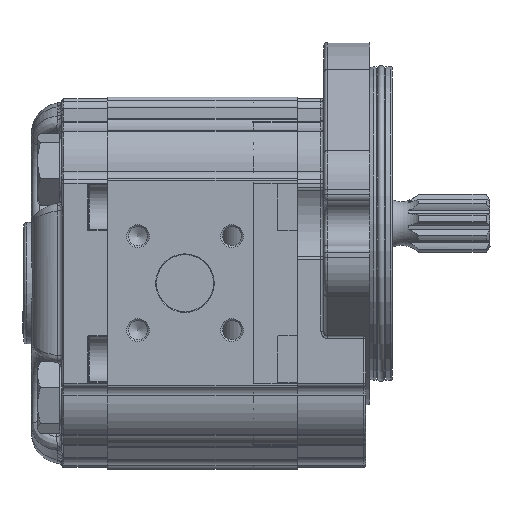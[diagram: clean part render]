
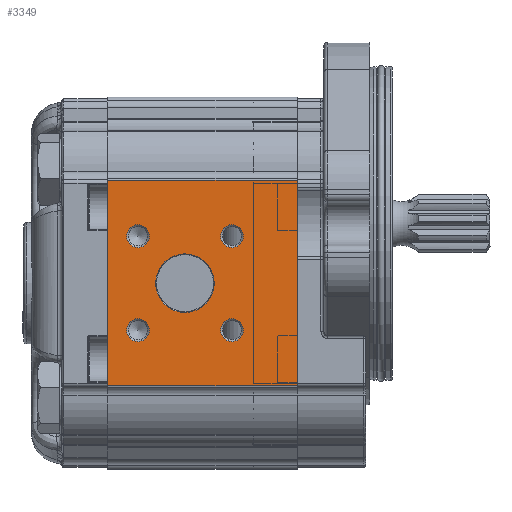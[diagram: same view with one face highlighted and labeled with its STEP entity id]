
A CAD part, left-side view. The second image highlights one B-rep face of the part: STEP entity #3349.
In plain terms, the highlighted planar face has unit normal (-1, 0, 0).
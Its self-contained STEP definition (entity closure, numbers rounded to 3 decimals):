
#3349 = ADVANCED_FACE( '', ( #8046, #8047, #8048, #8049, #8050, #8051 ), #8052, .T. );
#8046 = FACE_BOUND( '', #16081, .T. );
#8047 = FACE_BOUND( '', #16082, .T. );
#8048 = FACE_BOUND( '', #16083, .T. );
#8049 = FACE_BOUND( '', #16084, .T. );
#8050 = FACE_BOUND( '', #16085, .T. );
#8051 = FACE_OUTER_BOUND( '', #16086, .T. );
#8052 = PLANE( '', #16087 );
#16081 = EDGE_LOOP( '', ( #28395 ) );
#16082 = EDGE_LOOP( '', ( #28396 ) );
#16083 = EDGE_LOOP( '', ( #28397 ) );
#16084 = EDGE_LOOP( '', ( #28398 ) );
#16085 = EDGE_LOOP( '', ( #28399 ) );
#16086 = EDGE_LOOP( '', ( #28400, #28401, #28402, #28403 ) );
#16087 = AXIS2_PLACEMENT_3D( '', #28404, #28405, #28406 );
#28395 = ORIENTED_EDGE( '', *, *, #44004, .T. );
#28396 = ORIENTED_EDGE( '', *, *, #44005, .T. );
#28397 = ORIENTED_EDGE( '', *, *, #44006, .T. );
#28398 = ORIENTED_EDGE( '', *, *, #44007, .T. );
#28399 = ORIENTED_EDGE( '', *, *, #42517, .T. );
#28400 = ORIENTED_EDGE( '', *, *, #42496, .F. );
#28401 = ORIENTED_EDGE( '', *, *, #44008, .F. );
#28402 = ORIENTED_EDGE( '', *, *, #44009, .T. );
#28403 = ORIENTED_EDGE( '', *, *, #43338, .T. );
#28404 = CARTESIAN_POINT( '', ( -43., 50., 27.048 ) );
#28405 = DIRECTION( '', ( -1., 0., 0. ) );
#28406 = DIRECTION( '', ( 0., 0., 1. ) );
#42496 = EDGE_CURVE( '', #50825, #50827, #50828, .T. );
#42517 = EDGE_CURVE( '', #50863, #50863, #50864, .F. );
#43338 = EDGE_CURVE( '', #52152, #50827, #52153, .T. );
#44004 = EDGE_CURVE( '', #53133, #53133, #53134, .F. );
#44005 = EDGE_CURVE( '', #53135, #53135, #53136, .F. );
#44006 = EDGE_CURVE( '', #53137, #53137, #53138, .F. );
#44007 = EDGE_CURVE( '', #53139, #53139, #53140, .F. );
#44008 = EDGE_CURVE( '', #53141, #50825, #53142, .T. );
#44009 = EDGE_CURVE( '', #53141, #52152, #53143, .T. );
#50825 = VERTEX_POINT( '', #63923 );
#50827 = VERTEX_POINT( '', #63925 );
#50828 = LINE( '', #63926, #63927 );
#50863 = VERTEX_POINT( '', #63964 );
#50864 = CIRCLE( '', #63965, 3. );
#52152 = VERTEX_POINT( '', #66780 );
#52153 = LINE( '', #66781, #66782 );
#53133 = VERTEX_POINT( '', #69432 );
#53134 = CIRCLE( '', #69433, 7.7 );
#53135 = VERTEX_POINT( '', #69434 );
#53136 = CIRCLE( '', #69435, 3. );
#53137 = VERTEX_POINT( '', #69436 );
#53138 = CIRCLE( '', #69437, 3. );
#53139 = VERTEX_POINT( '', #69438 );
#53140 = CIRCLE( '', #69439, 3. );
#53141 = VERTEX_POINT( '', #69440 );
#53142 = LINE( '', #69441, #69442 );
#53143 = LINE( '', #69443, #69444 );
#63923 = CARTESIAN_POINT( '', ( -43., 0., 27.048 ) );
#63925 = CARTESIAN_POINT( '', ( -43., 0., -27.048 ) );
#63926 = CARTESIAN_POINT( '', ( -43., 0., 27.048 ) );
#63927 = VECTOR( '', #80844, 1000. );
#63964 = CARTESIAN_POINT( '', ( -43., 17.226, -9.374 ) );
#63965 = AXIS2_PLACEMENT_3D( '', #80898, #80899, #80900 );
#66780 = CARTESIAN_POINT( '', ( -43., 50., -27.048 ) );
#66781 = CARTESIAN_POINT( '', ( -43., 50., -27.048 ) );
#66782 = VECTOR( '', #81793, 1000. );
#69432 = CARTESIAN_POINT( '', ( -43., 29.6, 7.7 ) );
#69433 = AXIS2_PLACEMENT_3D( '', #82410, #82411, #82412 );
#69434 = CARTESIAN_POINT( '', ( -43., 41.974, -9.374 ) );
#69435 = AXIS2_PLACEMENT_3D( '', #82413, #82414, #82415 );
#69436 = CARTESIAN_POINT( '', ( -43., 41.974, 15.374 ) );
#69437 = AXIS2_PLACEMENT_3D( '', #82416, #82417, #82418 );
#69438 = CARTESIAN_POINT( '', ( -43., 17.226, 15.374 ) );
#69439 = AXIS2_PLACEMENT_3D( '', #82419, #82420, #82421 );
#69440 = CARTESIAN_POINT( '', ( -43., 50., 27.048 ) );
#69441 = CARTESIAN_POINT( '', ( -43., 50., 27.048 ) );
#69442 = VECTOR( '', #82422, 1000. );
#69443 = CARTESIAN_POINT( '', ( -43., 50., 27.048 ) );
#69444 = VECTOR( '', #82423, 1000. );
#80844 = DIRECTION( '', ( 0., 0., -1. ) );
#80898 = CARTESIAN_POINT( '', ( -43., 17.226, -12.374 ) );
#80899 = DIRECTION( '', ( -1., 0., 0. ) );
#80900 = DIRECTION( '', ( 0., 0., 1. ) );
#81793 = DIRECTION( '', ( 0., -1., 0. ) );
#82410 = CARTESIAN_POINT( '', ( -43., 29.6, 0. ) );
#82411 = DIRECTION( '', ( -1., 0., 0. ) );
#82412 = DIRECTION( '', ( 0., 0., 1. ) );
#82413 = CARTESIAN_POINT( '', ( -43., 41.974, -12.374 ) );
#82414 = DIRECTION( '', ( -1., 0., 0. ) );
#82415 = DIRECTION( '', ( 0., 0., 1. ) );
#82416 = CARTESIAN_POINT( '', ( -43., 41.974, 12.374 ) );
#82417 = DIRECTION( '', ( -1., 0., 0. ) );
#82418 = DIRECTION( '', ( 0., 0., 1. ) );
#82419 = CARTESIAN_POINT( '', ( -43., 17.226, 12.374 ) );
#82420 = DIRECTION( '', ( -1., 0., 0. ) );
#82421 = DIRECTION( '', ( 0., 0., 1. ) );
#82422 = DIRECTION( '', ( 0., -1., 0. ) );
#82423 = DIRECTION( '', ( 0., 0., -1. ) );
